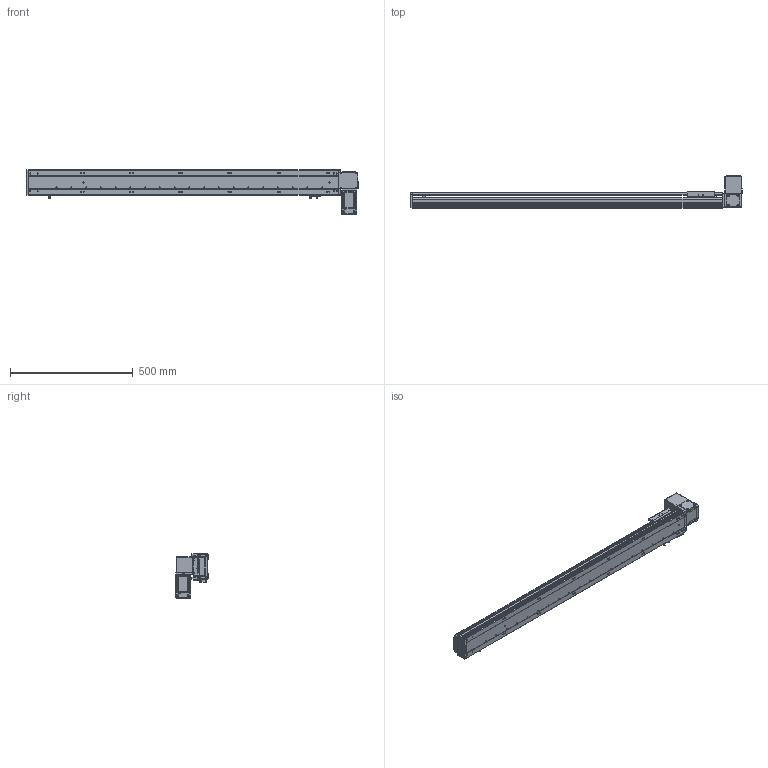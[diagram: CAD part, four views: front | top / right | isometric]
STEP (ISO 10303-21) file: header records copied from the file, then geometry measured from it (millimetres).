
FILE_DESCRIPTION (( 'STEP AP203' ), '1' );
FILE_NAME ('RY100-T-300-UL.SLDASM_1050.step', '2024-04-25T08:40:05', ( '盈信电脑' ), ( '东莞市道滘镇水果街19号' ), 'SwSTEP 2.0', 'SolidWorks 2016', '' );
FILE_SCHEMA (( 'CONFIG_CONTROL_DESIGN' ));
Length unit declared in the file: millimetre
Products named in the file (15): RY100-T粣創揤踡裔; RY100-T-300-RK倰第奻裔_1050; 覜茼ん672; RY100-T-300-RK倰第菁釱_1050; RY100-T翋肮祭謫裔啣; RY100-T肮祭謫翋盓傅釱; RY100俋离覜茼え; RY100-T翋肮祭謫裔啣2; RY100-T肮祭謫臏賑輸; 滅袉蝶18-10; RY80-T肮祭謫奻殏俋欶; RY100-T左右折电机安装板; 1; RY100綴裔啣; RY100-T-300-UL.SLDASM_1050
Assembly tree (17 placements, depth 2):
  RY100-T-300-UL.SLDASM_1050
    RY100-T-300-RK倰第菁釱_1050
    RY100-T-300-RK倰第奻裔_1050
    RY100-T肮祭謫臏賑輸
    RY100綴裔啣
    覜茼ん672  x3
    RY100俋离覜茼え
    RY100-T肮祭謫翋盓傅釱
    滅袉蝶18-10  x2
    RY100-T翋肮祭謫裔啣2
    RY100-T翋肮祭謫裔啣
    1
    RY100-T左右折电机安装板
    RY80-T肮祭謫奻殏俋欶
    RY100-T粣創揤踡裔
Bounding box: 1350 x 130.5 x 182.5 mm (x, y, z)
Volume: 2709018.5 mm3; surface area: 1115647.5 mm2
Topology: 17 solids, 17 shells, 2179 faces, 6044 edges, 3924 vertices
Faces by surface type: plane 1199, cylinder 773, cone 129, bspline 78
Entity records: 69838 total; most frequent: CARTESIAN_POINT 16695, ORIENTED_EDGE 10920, DIRECTION 10418, EDGE_CURVE 5460, VERTEX_POINT 3592, LINE 3562, VECTOR 3562, AXIS2_PLACEMENT_3D 3428
